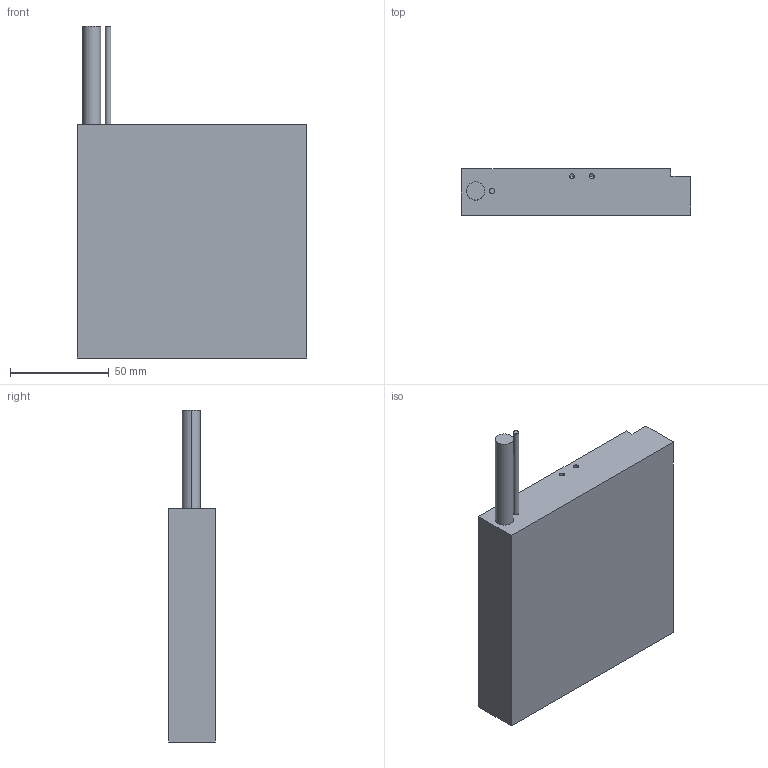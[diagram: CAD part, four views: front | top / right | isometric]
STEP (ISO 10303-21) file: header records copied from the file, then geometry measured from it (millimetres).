
FILE_DESCRIPTION (( 'STEP AP203' ), '1' );
FILE_NAME ('LMSA31.STEP', '2016-05-13T05:59:21', ( '' ), ( '' ), 'SwSTEP 2.0', 'SolidWorks 2015', '' );
FILE_SCHEMA (( 'CONFIG_CONTROL_DESIGN' ));
Length unit declared in the file: millimetre
Products named in the file (1): LMSA31
Bounding box: 116 x 23.7 x 168 mm (x, y, z)
Volume: 322554.8 mm3; surface area: 40732.4 mm2
Topology: 1 solids, 1 shells, 60 faces, 146 edges, 79 vertices
Faces by surface type: cylinder 26, cone 22, plane 12
Entity records: 1669 total; most frequent: DIRECTION 298, CARTESIAN_POINT 264, ORIENTED_EDGE 248, EDGE_CURVE 124, AXIS2_PLACEMENT_3D 113, VERTEX_POINT 79, EDGE_LOOP 73, VECTOR 72
